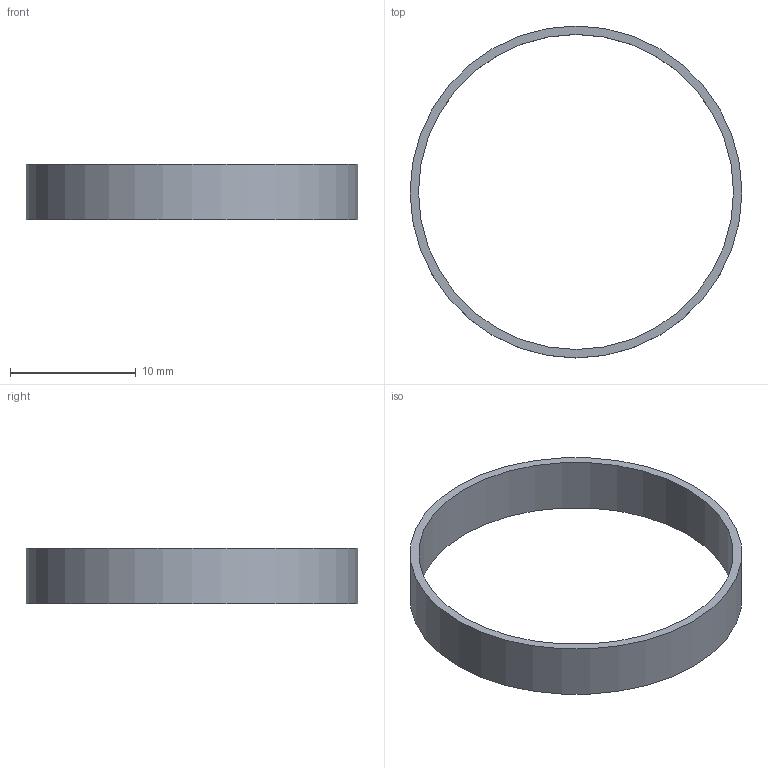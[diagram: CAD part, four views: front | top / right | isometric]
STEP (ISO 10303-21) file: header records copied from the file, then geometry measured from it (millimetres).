
FILE_DESCRIPTION(('Open CASCADE Model'),'2;1');
FILE_NAME('Open CASCADE Shape Model','2026-11-24T20:33:36',('Author'),( 'Open CASCADE'),'Open CASCADE STEP processor 7.8','Open CASCADE 7.8' ,'Unknown');
FILE_SCHEMA(('AUTOMOTIVE_DESIGN { 1 0 10303 214 1 1 1 1 }'));
Length unit declared in the file: millimetre
Products named in the file (1): Open CASCADE STEP translator 7.8 6
Bounding box: 26.38 x 26.38 x 4.41 mm (x, y, z)
Volume: 238.7 mm3; surface area: 820.6 mm2
Topology: 1 solids, 1 shells, 4 faces, 6 edges, 4 vertices
Faces by surface type: cylinder 2, plane 2
Full cylindrical faces by diameter (mm): 25.04 x1, 26.38 x1
Entity records: 186 total; most frequent: DIRECTION 32, CARTESIAN_POINT 27, ORIENTED_EDGE 12, PCURVE 12, DEFINITIONAL_REPRESENTATION 12, LINE 10, VECTOR 10, AXIS2_PLACEMENT_3D 9
